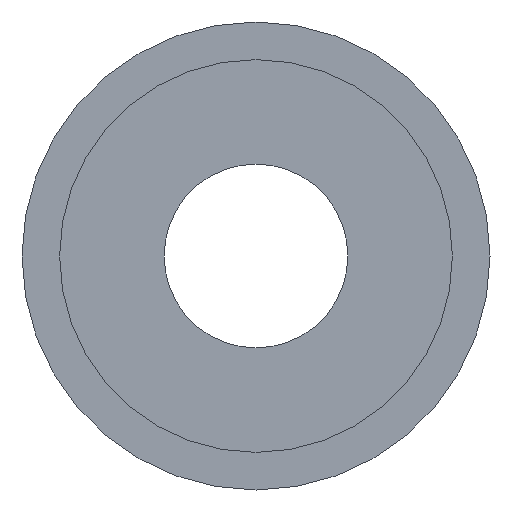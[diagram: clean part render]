
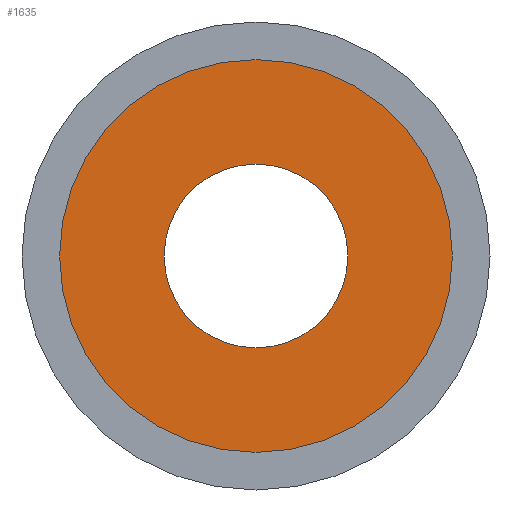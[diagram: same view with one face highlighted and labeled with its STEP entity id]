
A CAD part, front view. The second image highlights one B-rep face of the part: STEP entity #1635.
In plain terms, the highlighted planar face has unit normal (0, -1, 0).
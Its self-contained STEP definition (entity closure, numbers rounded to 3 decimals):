
#105 = DIRECTION ( 'NONE',  ( 0., 0., 1. ) ) ;
#128 = VERTEX_POINT ( 'NONE', #1980 ) ;
#188 = EDGE_LOOP ( 'NONE', ( #1184, #1697 ) ) ;
#241 = CIRCLE ( 'NONE', #1570, 23.5 ) ;
#264 = AXIS2_PLACEMENT_3D ( 'NONE', #2047, #1679, #533 ) ;
#273 = FACE_OUTER_BOUND ( 'NONE', #1226, .T. ) ;
#395 = EDGE_CURVE ( 'NONE', #2387, #755, #1207, .T. ) ;
#533 = DIRECTION ( 'NONE',  ( 0., 0., -1. ) ) ;
#573 = CARTESIAN_POINT ( 'NONE',  ( 0., -14., 0. ) ) ;
#575 = FACE_BOUND ( 'NONE', #188, .T. ) ;
#601 = CARTESIAN_POINT ( 'NONE',  ( 0., -14., 0. ) ) ;
#617 = EDGE_CURVE ( 'NONE', #2050, #128, #1353, .T. ) ;
#641 = ORIENTED_EDGE ( 'NONE', *, *, #1639, .T. ) ;
#664 = DIRECTION ( 'NONE',  ( 0., 1., 0. ) ) ;
#755 = VERTEX_POINT ( 'NONE', #2044 ) ;
#756 = CARTESIAN_POINT ( 'NONE',  ( 0., -14., 11. ) ) ;
#799 = DIRECTION ( 'NONE',  ( 0., 0., -1. ) ) ;
#915 = ORIENTED_EDGE ( 'NONE', *, *, #617, .T. ) ;
#1001 = AXIS2_PLACEMENT_3D ( 'NONE', #573, #2461, #2293 ) ;
#1071 = CIRCLE ( 'NONE', #1001, 11. ) ;
#1184 = ORIENTED_EDGE ( 'NONE', *, *, #2392, .F. ) ;
#1207 = CIRCLE ( 'NONE', #264, 11. ) ;
#1226 = EDGE_LOOP ( 'NONE', ( #915, #641 ) ) ;
#1244 = AXIS2_PLACEMENT_3D ( 'NONE', #601, #1925, #799 ) ;
#1353 = CIRCLE ( 'NONE', #1244, 23.5 ) ;
#1428 = PLANE ( 'NONE',  #2076 ) ;
#1570 = AXIS2_PLACEMENT_3D ( 'NONE', #1852, #2434, #2424 ) ;
#1635 = ADVANCED_FACE ( 'NONE', ( #575, #273 ), #1428, .F. ) ;
#1639 = EDGE_CURVE ( 'NONE', #128, #2050, #241, .T. ) ;
#1679 = DIRECTION ( 'NONE',  ( 0., -1., 0. ) ) ;
#1697 = ORIENTED_EDGE ( 'NONE', *, *, #395, .F. ) ;
#1820 = CARTESIAN_POINT ( 'NONE',  ( 0., -14., 11. ) ) ;
#1852 = CARTESIAN_POINT ( 'NONE',  ( 0., -14., 0. ) ) ;
#1925 = DIRECTION ( 'NONE',  ( 0., -1., 0. ) ) ;
#1980 = CARTESIAN_POINT ( 'NONE',  ( 0., -14., 23.5 ) ) ;
#2044 = CARTESIAN_POINT ( 'NONE',  ( 0., -14., -11. ) ) ;
#2047 = CARTESIAN_POINT ( 'NONE',  ( 0., -14., 0. ) ) ;
#2050 = VERTEX_POINT ( 'NONE', #2141 ) ;
#2076 = AXIS2_PLACEMENT_3D ( 'NONE', #1820, #664, #105 ) ;
#2141 = CARTESIAN_POINT ( 'NONE',  ( 0., -14., -23.5 ) ) ;
#2293 = DIRECTION ( 'NONE',  ( 0., 0., -1. ) ) ;
#2387 = VERTEX_POINT ( 'NONE', #756 ) ;
#2392 = EDGE_CURVE ( 'NONE', #755, #2387, #1071, .T. ) ;
#2424 = DIRECTION ( 'NONE',  ( 0., 0., -1. ) ) ;
#2434 = DIRECTION ( 'NONE',  ( 0., -1., 0. ) ) ;
#2461 = DIRECTION ( 'NONE',  ( 0., -1., 0. ) ) ;
